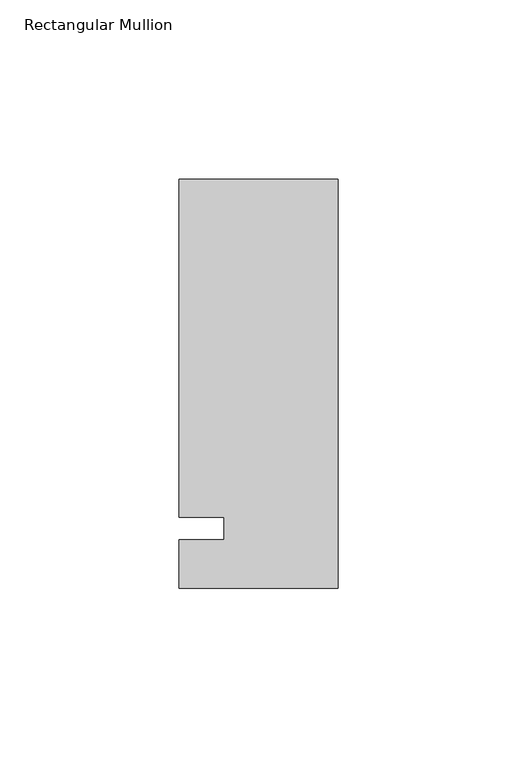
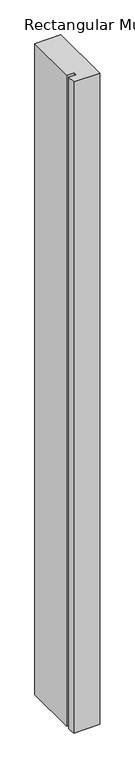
"""IFC4 building model written with IfcOpenShell, lengths in millimetres: member geometry, Rectangular Mullion : Kawneer-TRIFAB_VG_450_BACK_SB_Head."""

from ifc_helpers import new_model, si_unit, frame, origin, place, context, project, spatial, polyline, outline, extrude, source, transform, mapped, element, save


def rectangular_mullion_4961243a(model_context):
    return source(origin(), model_context, "Body", "SweptSolid", [
        extrude(outline(polyline([(-44.45, -16.66875), (-44.45, -3.175), (-31.7482296, -3.175), (-31.7482296, 3.175), (-44.45, 3.175), (-44.45, 97.63125), (0.0, 97.63125), (0.0, -16.66875), (-44.45, -16.66875)])), frame((0.0, 0.0, -1175.3059074), z_axis=(0.0, 0.0, 1.0), x_axis=(1.0, 0.0, 0.0)), (0.0, 0.0, 1.0), 1175.3059074),
    ])


if __name__ == "__main__":
    model = new_model("IFC4")
    model_context = context("Model", 3, world=origin())
    ifc_project = project(units=[si_unit("LENGTHUNIT", "METRE", prefix="MILLI")], contexts=[model_context])
    site = spatial("IfcSite", under=ifc_project)
    building = spatial("IfcBuilding", under=site)
    placement = place(None, origin())
    rectangular_mullion_shape = rectangular_mullion_4961243a(model_context)
    element("IfcMember", 1, ObjectType="Rectangular Mullion : Kawneer-TRIFAB_VG_450_BACK_SB_Head", at=placement, inside=building, context=model_context, shape_type="MappedRepresentation", body=[
        mapped(rectangular_mullion_shape, transform((0.0, 0.0, 0.0), x_axis=(1.0, 0.0, 0.0), y_axis=(0.0, 1.0, 0.0), z_axis=(0.0, 0.0, 1.0))),
    ])
    save(model, "model.ifc")
